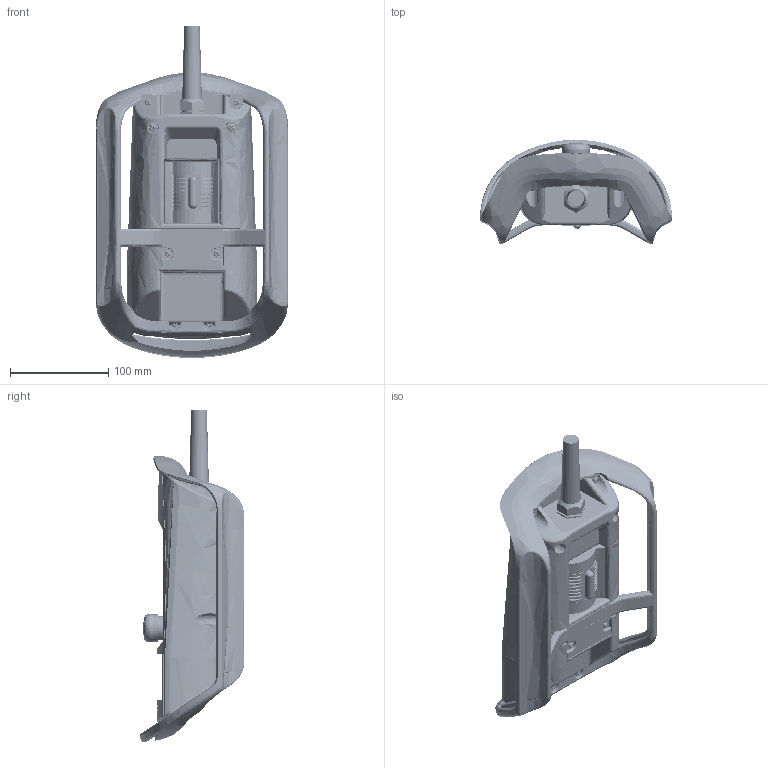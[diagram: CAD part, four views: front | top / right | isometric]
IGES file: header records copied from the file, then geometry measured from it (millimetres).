
Start section: SolidWorks IGES file using analytic representation for surfaces
Global section: file name: Q:\3D僨乕僞\_HG\OUTSIDE-HG1U-SB12JH.IGS,15; native system: HSolidWorks 2010; preprocessor: SolidWorks 2010; author: 2606; date: 110908.220422; units: millimetre
Bounding box: 195.2 x 106.54 x 338 mm (x, y, z)
Surface area: 395653 mm2 (no closed solid volume)
Topology: 0 solids, 0 shells, 3559 faces, 40312 edges, 40284 vertices
Faces by surface type: bspline 2249, revolution 1310
